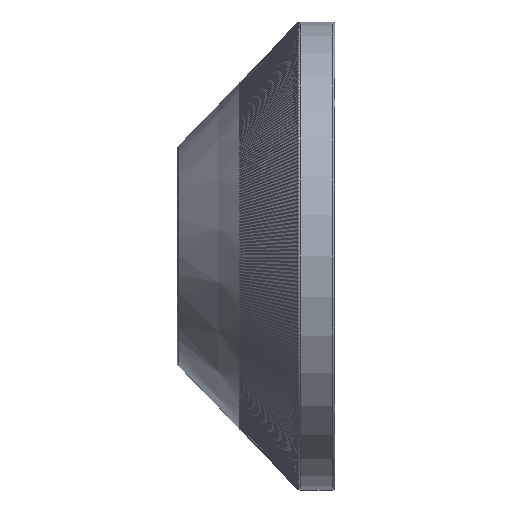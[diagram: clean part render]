
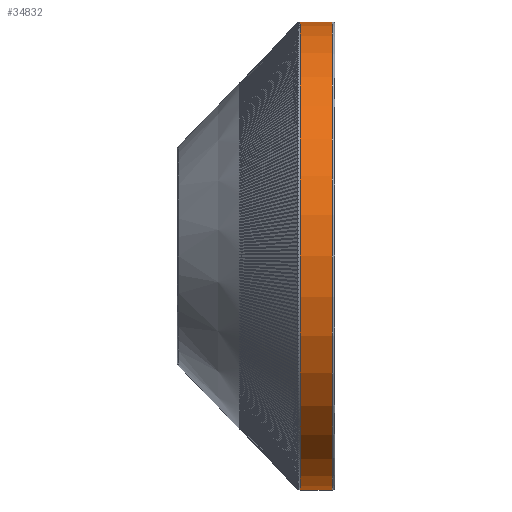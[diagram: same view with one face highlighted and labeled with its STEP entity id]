
A CAD part, left-side view. The second image highlights one B-rep face of the part: STEP entity #34832.
In plain terms, the highlighted cylindrical face has radius 9.65 mm (diameter 19.3 mm), a full revolution.
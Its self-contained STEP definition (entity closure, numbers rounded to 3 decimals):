
#4244=FACE_OUTER_BOUND('',#6188,.T.);
#6188=EDGE_LOOP('',(#32499,#32500,#32501,#32502));
#9450=CIRCLE('',#35066,9.65);
#11116=CIRCLE('',#37132,9.65);
#11230=LINE('',#144698,#11341);
#11341=VECTOR('',#41818,9.65);
#11936=VERTEX_POINT('',#47933);
#15189=VERTEX_POINT('',#144694);
#15797=EDGE_CURVE('',#11936,#11936,#9450,.T.);
#20960=EDGE_CURVE('',#15189,#15189,#11116,.T.);
#20962=EDGE_CURVE('',#11936,#15189,#11230,.T.);
#32499=ORIENTED_EDGE('',*,*,#15797,.F.);
#32500=ORIENTED_EDGE('',*,*,#20962,.T.);
#32501=ORIENTED_EDGE('',*,*,#20960,.F.);
#32502=ORIENTED_EDGE('',*,*,#20962,.F.);
#32900=CYLINDRICAL_SURFACE('',#37134,9.65);
#34832=ADVANCED_FACE('',(#4244),#32900,.T.);
#35066=AXIS2_PLACEMENT_3D('',#47935,#37583,#37584);
#37132=AXIS2_PLACEMENT_3D('',#144695,#41812,#41813);
#37134=AXIS2_PLACEMENT_3D('',#144697,#41816,#41817);
#37583=DIRECTION('center_axis',(0.,1.,0.));
#37584=DIRECTION('ref_axis',(0.,0.,
-1.));
#41812=DIRECTION('center_axis',(0.,-1.,0.));
#41813=DIRECTION('ref_axis',(0.,0.,
-1.));
#41816=DIRECTION('center_axis',(0.,1.,0.));
#41817=DIRECTION('ref_axis',(0.,0.,1.));
#41818=DIRECTION('',(0.,-1.,0.));
#47933=CARTESIAN_POINT('',(0.,1.415,-9.65));
#47935=CARTESIAN_POINT('Origin',(0.,1.415,0.));
#144694=CARTESIAN_POINT('',(0.,0.1,-9.65));
#144695=CARTESIAN_POINT('Origin',(0.,0.1,0.));
#144697=CARTESIAN_POINT('Origin',(0.,0.75,0.));
#144698=CARTESIAN_POINT('',(0.,0.75,-9.65));
